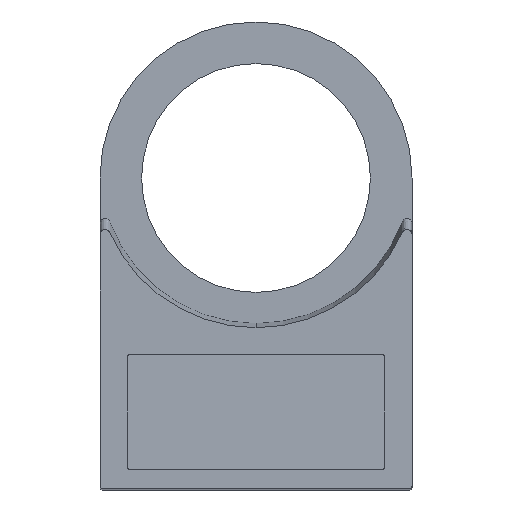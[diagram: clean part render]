
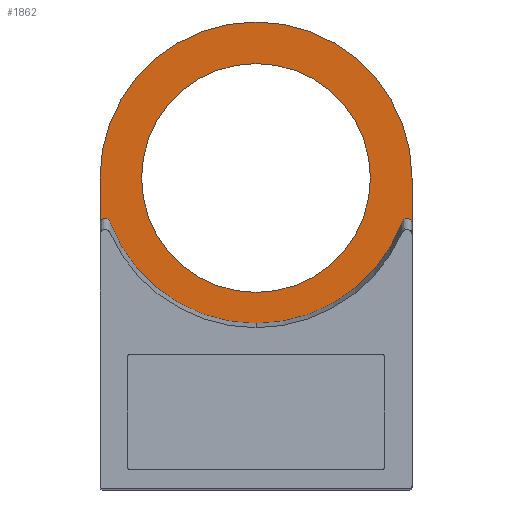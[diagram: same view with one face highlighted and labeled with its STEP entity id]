
A CAD part, front view. The second image highlights one B-rep face of the part: STEP entity #1862.
In plain terms, the highlighted planar face has unit normal (0, -1, 0).
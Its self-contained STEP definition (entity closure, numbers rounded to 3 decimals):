
#20 = VERTEX_POINT ( 'NONE', #52 ) ;
#46 = EDGE_LOOP ( 'NONE', ( #1529, #1719, #2056, #2279, #1784, #2268, #1050, #260 ) ) ;
#52 = CARTESIAN_POINT ( 'NONE',  ( 15., 0.55, 30. ) ) ;
#61 = DIRECTION ( 'NONE',  ( 0., 0., -1. ) ) ;
#94 = AXIS2_PLACEMENT_3D ( 'NONE', #326, #1391, #296 ) ;
#102 = CARTESIAN_POINT ( 'NONE',  ( 14.723, 0.55, 26.056 ) ) ;
#104 = DIRECTION ( 'NONE',  ( 0., -1., 0. ) ) ;
#112 = EDGE_CURVE ( 'NONE', #600, #1429, #1005, .T. ) ;
#161 = PLANE ( 'NONE',  #1681 ) ;
#167 = EDGE_LOOP ( 'NONE', ( #2018, #1027 ) ) ;
#181 = EDGE_CURVE ( 'NONE', #1499, #797, #878, .T. ) ;
#190 = CARTESIAN_POINT ( 'NONE',  ( -14.373, 0.55, 26.086 ) ) ;
#206 = EDGE_CURVE ( 'NONE', #600, #1824, #1899, .T. ) ;
#231 = CARTESIAN_POINT ( 'NONE',  ( -14.724, 0.55, 26.055 ) ) ;
#239 = CARTESIAN_POINT ( 'NONE',  ( 0., 0.55, 31. ) ) ;
#246 = DIRECTION ( 'NONE',  ( 0., 0., -1. ) ) ;
#260 = ORIENTED_EDGE ( 'NONE', *, *, #917, .F. ) ;
#282 = CARTESIAN_POINT ( 'NONE',  ( 15., 0.55, 25.682 ) ) ;
#296 = DIRECTION ( 'NONE',  ( 0., 0., -1. ) ) ;
#326 = CARTESIAN_POINT ( 'NONE',  ( 0., 0.55, 30. ) ) ;
#363 = CARTESIAN_POINT ( 'NONE',  ( -14.825, 0.55, 25.986 ) ) ;
#367 = B_SPLINE_CURVE_WITH_KNOTS ( 'NONE', 3,
 ( #801, #1521, #1714, #2226, #631, #102, #1172, #1883, #282, #998 ),
 .UNSPECIFIED., .F., .F.,
 ( 4, 2, 2, 2, 4 ),
 ( 0., 0.25, 0.5, 0.75, 1. ),
 .UNSPECIFIED. ) ;
#393 = CARTESIAN_POINT ( 'NONE',  ( -15., 0.55, 25.564 ) ) ;
#403 = CARTESIAN_POINT ( 'NONE',  ( 0., 0.55, 16. ) ) ;
#474 = VERTEX_POINT ( 'NONE', #403 ) ;
#479 = CARTESIAN_POINT ( 'NONE',  ( 0., 0.55, 31. ) ) ;
#511 = FACE_BOUND ( 'NONE', #167, .T. ) ;
#545 = DIRECTION ( 'NONE',  ( 0., -1., 0. ) ) ;
#586 = EDGE_CURVE ( 'NONE', #1306, #474, #2297, .T. ) ;
#596 = CARTESIAN_POINT ( 'NONE',  ( -14.105, 0.55, 25.867 ) ) ;
#600 = VERTEX_POINT ( 'NONE', #393 ) ;
#631 = CARTESIAN_POINT ( 'NONE',  ( 14.495, 0.55, 26.107 ) ) ;
#656 = CIRCLE ( 'NONE', #961, 15. ) ;
#705 = CIRCLE ( 'NONE', #1750, 11. ) ;
#739 = CARTESIAN_POINT ( 'NONE',  ( 0., 0.55, 45. ) ) ;
#751 = CARTESIAN_POINT ( 'NONE',  ( -14.964, 0.55, 25.796 ) ) ;
#757 = AXIS2_PLACEMENT_3D ( 'NONE', #2221, #2030, #246 ) ;
#797 = VERTEX_POINT ( 'NONE', #1229 ) ;
#801 = CARTESIAN_POINT ( 'NONE',  ( 14.055, 0.55, 25.761 ) ) ;
#804 = CIRCLE ( 'NONE', #94, 15. ) ;
#878 = CIRCLE ( 'NONE', #757, 11. ) ;
#904 = CARTESIAN_POINT ( 'NONE',  ( -14.224, 0.55, 25.997 ) ) ;
#917 = EDGE_CURVE ( 'NONE', #474, #1429, #1100, .T. ) ;
#921 = CARTESIAN_POINT ( 'NONE',  ( 15., 0.55, 30. ) ) ;
#933 = EDGE_CURVE ( 'NONE', #1306, #1851, #367, .T. ) ;
#937 = CARTESIAN_POINT ( 'NONE',  ( 0., 0.55, 30. ) ) ;
#949 = DIRECTION ( 'NONE',  ( 0., -1., 0. ) ) ;
#961 = AXIS2_PLACEMENT_3D ( 'NONE', #937, #949, #1659 ) ;
#998 = CARTESIAN_POINT ( 'NONE',  ( 15., 0.55, 25.564 ) ) ;
#1005 = B_SPLINE_CURVE_WITH_KNOTS ( 'NONE', 3,
 ( #1791, #1640, #751, #363, #231, #1470, #190, #904, #1621, #596, #1482, #1674 ),
 .UNSPECIFIED., .F., .F.,
 ( 4, 2, 2, 2, 2, 4 ),
 ( 0., 0.25, 0.5, 0.75, 0.875, 1. ),
 .UNSPECIFIED. ) ;
#1027 = ORIENTED_EDGE ( 'NONE', *, *, #181, .F. ) ;
#1032 = CARTESIAN_POINT ( 'NONE',  ( -14.055, 0.55, 25.761 ) ) ;
#1050 = ORIENTED_EDGE ( 'NONE', *, *, #112, .T. ) ;
#1080 = VECTOR ( 'NONE', #1466, 1000. ) ;
#1081 = VECTOR ( 'NONE', #1150, 1000. ) ;
#1100 = CIRCLE ( 'NONE', #2101, 15. ) ;
#1150 = DIRECTION ( 'NONE',  ( 0., 0., 1. ) ) ;
#1172 = CARTESIAN_POINT ( 'NONE',  ( 14.825, 0.55, 25.985 ) ) ;
#1229 = CARTESIAN_POINT ( 'NONE',  ( 0., 0.55, 41. ) ) ;
#1277 = CARTESIAN_POINT ( 'NONE',  ( 15., 0.55, 25.564 ) ) ;
#1297 = AXIS2_PLACEMENT_3D ( 'NONE', #239, #1986, #61 ) ;
#1306 = VERTEX_POINT ( 'NONE', #1363 ) ;
#1346 = EDGE_CURVE ( 'NONE', #20, #1474, #804, .T. ) ;
#1363 = CARTESIAN_POINT ( 'NONE',  ( 14.055, 0.55, 25.761 ) ) ;
#1391 = DIRECTION ( 'NONE',  ( 0., -1., 0. ) ) ;
#1429 = VERTEX_POINT ( 'NONE', #1032 ) ;
#1466 = DIRECTION ( 'NONE',  ( 0., 0., -1. ) ) ;
#1470 = CARTESIAN_POINT ( 'NONE',  ( -14.497, 0.55, 26.107 ) ) ;
#1474 = VERTEX_POINT ( 'NONE', #739 ) ;
#1482 = CARTESIAN_POINT ( 'NONE',  ( -14.076, 0.55, 25.817 ) ) ;
#1499 = VERTEX_POINT ( 'NONE', #2123 ) ;
#1521 = CARTESIAN_POINT ( 'NONE',  ( 14.097, 0.55, 25.872 ) ) ;
#1529 = ORIENTED_EDGE ( 'NONE', *, *, #586, .F. ) ;
#1621 = CARTESIAN_POINT ( 'NONE',  ( -14.179, 0.55, 25.958 ) ) ;
#1640 = CARTESIAN_POINT ( 'NONE',  ( -15., 0.55, 25.681 ) ) ;
#1645 = EDGE_CURVE ( 'NONE', #1474, #1824, #656, .T. ) ;
#1659 = DIRECTION ( 'NONE',  ( 0., 0., -1. ) ) ;
#1674 = CARTESIAN_POINT ( 'NONE',  ( -14.055, 0.55, 25.761 ) ) ;
#1681 = AXIS2_PLACEMENT_3D ( 'NONE', #1957, #545, #2106 ) ;
#1714 = CARTESIAN_POINT ( 'NONE',  ( 14.171, 0.55, 25.965 ) ) ;
#1719 = ORIENTED_EDGE ( 'NONE', *, *, #933, .T. ) ;
#1750 = AXIS2_PLACEMENT_3D ( 'NONE', #2227, #104, #2071 ) ;
#1777 = EDGE_CURVE ( 'NONE', #797, #1499, #705, .T. ) ;
#1784 = ORIENTED_EDGE ( 'NONE', *, *, #1645, .T. ) ;
#1791 = CARTESIAN_POINT ( 'NONE',  ( -15., 0.55, 25.564 ) ) ;
#1824 = VERTEX_POINT ( 'NONE', #1906 ) ;
#1851 = VERTEX_POINT ( 'NONE', #1277 ) ;
#1854 = LINE ( 'NONE', #921, #1080 ) ;
#1862 = ADVANCED_FACE ( 'NONE', ( #2139, #511 ), #161, .T. ) ;
#1876 = CARTESIAN_POINT ( 'NONE',  ( -15., 0.55, 0. ) ) ;
#1883 = CARTESIAN_POINT ( 'NONE',  ( 14.963, 0.55, 25.798 ) ) ;
#1899 = LINE ( 'NONE', #1876, #1081 ) ;
#1906 = CARTESIAN_POINT ( 'NONE',  ( -15., 0.55, 30. ) ) ;
#1957 = CARTESIAN_POINT ( 'NONE',  ( 0., 0.55, 31. ) ) ;
#1986 = DIRECTION ( 'NONE',  ( 0., 1., 0. ) ) ;
#1997 = EDGE_CURVE ( 'NONE', #20, #1851, #1854, .T. ) ;
#2018 = ORIENTED_EDGE ( 'NONE', *, *, #1777, .F. ) ;
#2030 = DIRECTION ( 'NONE',  ( 0., -1., 0. ) ) ;
#2035 = DIRECTION ( 'NONE',  ( 0., 1., 0. ) ) ;
#2049 = DIRECTION ( 'NONE',  ( 0., 0., -1. ) ) ;
#2056 = ORIENTED_EDGE ( 'NONE', *, *, #1997, .F. ) ;
#2071 = DIRECTION ( 'NONE',  ( 0., 0., -1. ) ) ;
#2101 = AXIS2_PLACEMENT_3D ( 'NONE', #479, #2035, #2049 ) ;
#2106 = DIRECTION ( 'NONE',  ( 0., 0., -1. ) ) ;
#2123 = CARTESIAN_POINT ( 'NONE',  ( 0., 0.55, 19. ) ) ;
#2139 = FACE_OUTER_BOUND ( 'NONE', #46, .T. ) ;
#2221 = CARTESIAN_POINT ( 'NONE',  ( 0., 0.55, 30. ) ) ;
#2226 = CARTESIAN_POINT ( 'NONE',  ( 14.374, 0.55, 26.087 ) ) ;
#2227 = CARTESIAN_POINT ( 'NONE',  ( 0., 0.55, 30. ) ) ;
#2268 = ORIENTED_EDGE ( 'NONE', *, *, #206, .F. ) ;
#2279 = ORIENTED_EDGE ( 'NONE', *, *, #1346, .T. ) ;
#2297 = CIRCLE ( 'NONE', #1297, 15. ) ;
